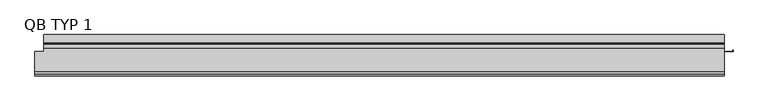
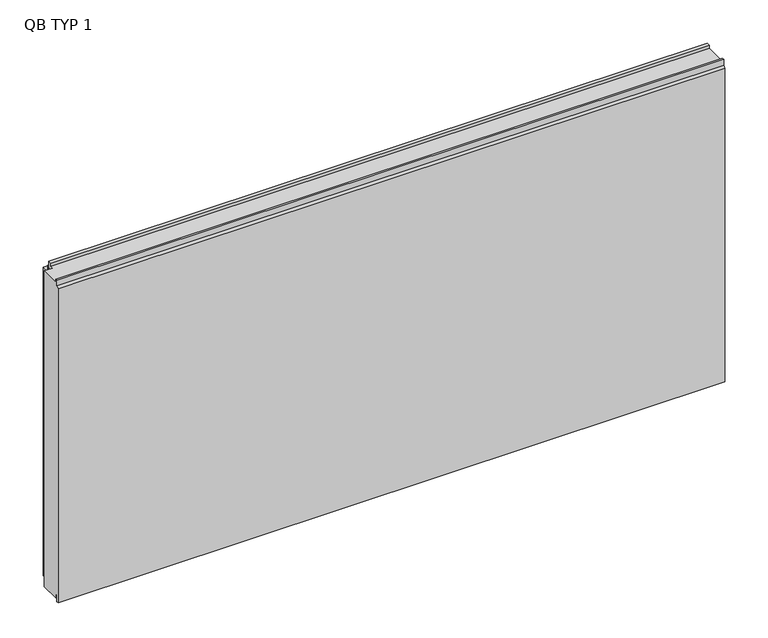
"""IFC4 building model written with IfcOpenShell, lengths in millimetres: plate geometry, TR_C_H_QBISS_Panel : QB TYP 1."""

from ifc_helpers import new_model, si_unit, frame, origin, place, context, project, spatial, polyline, outline, extrude, faceted_brep, source, transform, mapped, element, save


def qb_typ_1_c7bdcc42(model_context):
    return source(origin(), model_context, "Body", "SolidModel", [
        extrude(outline(polyline([(1011.7500002, -49.0), (986.5500002, -49.0), (986.5500002, -48.2), (1010.9500002, -48.2), (1010.9500002, -44.0), (1011.7500002, -44.0), (1011.7500002, -49.0)])), frame((0.0, 0.0, 54.0), z_axis=(0.0, 0.0, 1.0), x_axis=(1.0, 0.0, 0.0)), (0.0, 0.0, 1.0), 862.0),
        faceted_brep([(986.7500002, -108.0, 1000.0), (986.7500002, -108.0, 1010.0), (986.7500002, -114.0, 1010.0), (986.7500002, -114.0, 992.0), (986.7500002, -120.0, 986.0), (986.7500002, -120.0, -8.0), (986.7500002, -114.0, -8.0), (986.7500002, -114.0, 13.0), (986.7500002, -108.0, 13.0), (986.7500002, -108.0, 0.0), (986.7500002, -49.0, 0.0), (986.7500002, -49.0, 1000.0), (-1011.6500002, -108.0, 0.0), (-1011.6500002, -108.0, 13.0), (-1011.6500002, -114.0, 13.0), (-1011.6500002, -114.0, -8.0), (-1011.6500002, -120.0, -8.0), (-1011.6500002, -120.0, 986.0), (-1011.6500002, -114.0, 992.0), (-1011.6500002, -114.0, 1010.0), (-1011.6500002, -108.0, 1010.0), (-1011.6500002, -108.0, 1000.0), (-1011.6500002, -49.0, 1000.0), (-1011.6500002, -49.0, 0.0), (-986.5500002, -49.0, 0.0), (-986.5500002, -39.0, 0.0), (986.5500002, -39.0, 0.0), (986.5500002, -49.0, 0.0), (-986.5500002, -39.0, 13.0), (986.5500002, -39.0, 13.0), (-986.5500002, -29.0, 13.0), (986.5500002, -29.0, 13.0), (-986.5500002, -29.0, -4.0), (986.5500002, -29.0, -4.0), (-986.5500002, 0.0, -4.0), (986.5500002, 0.0, -4.0), (-986.5500002, 0.0, 973.0), (986.5500002, 0.0, 973.0), (-986.5500002, -29.0, 973.0), (986.5500002, -29.0, 973.0), (-986.5500002, -29.0, 1010.0), (986.5500002, -29.0, 1010.0), (-986.5500002, -39.0, 1010.0), (986.5500002, -39.0, 1010.0), (-986.5500002, -39.0, 1000.0), (986.5500002, -39.0, 1000.0), (986.5500002, -49.0, 1000.0), (-986.5500002, -49.0, 1000.0)], [[[0, 1, 2, 3, 4, 5, 6, 7, 8, 9, 10, 11]], [[12, 13, 14, 15, 16, 17, 18, 19, 20, 21, 22, 23]], [[9, 12, 23, 24, 25, 26, 27, 10]], [[26, 25, 28, 29]], [[29, 28, 30, 31]], [[31, 30, 32, 33]], [[33, 32, 34, 35]], [[35, 34, 36, 37]], [[37, 36, 38, 39]], [[39, 38, 40, 41]], [[41, 40, 42, 43]], [[43, 42, 44, 45]], [[21, 0, 11, 46, 45, 44, 47, 22]], [[1, 0, 21, 20]], [[2, 1, 20, 19]], [[3, 2, 19, 18]], [[4, 3, 18, 17]], [[5, 4, 17, 16]], [[6, 5, 16, 15]], [[7, 6, 15, 14]], [[8, 7, 14, 13]], [[9, 8, 13, 12]], [[47, 24, 23, 22]], [[24, 47, 44, 42, 40, 38, 36, 34, 32, 30, 28, 25]], [[46, 27, 26, 29, 31, 33, 35, 37, 39, 41, 43, 45]], [[27, 46, 11, 10]]]),
        extrude(outline(polyline([(-24.0, 994.5), (-24.0, 974.5), (-25.4998317, 974.5), (-25.4998317, 981.3023028), (-27.9998293, 981.3023028), (-27.9998293, 980.5023028), (-28.7998428, 980.5023028), (-28.7998428, 988.5023593), (-27.9998293, 988.5023593), (-27.9998293, 987.7023593), (-25.4998317, 987.7023593), (-25.4998317, 994.5), (-24.0, 994.5)])), frame((-986.5500002, 0.0, 0.0), z_axis=(1.0, 0.0, 0.0), x_axis=(0.0, 1.0, 0.0)), (0.0, 0.0, 1.0), 1973.1000003),
    ])


if __name__ == "__main__":
    model = new_model("IFC4")
    model_context = context("Model", 3, world=origin())
    ifc_project = project(units=[si_unit("LENGTHUNIT", "METRE", prefix="MILLI")], contexts=[model_context])
    site = spatial("IfcSite", under=ifc_project)
    building = spatial("IfcBuilding", under=site)
    placement = place(None, origin())
    qb_typ_1_shape = qb_typ_1_c7bdcc42(model_context)
    element("IfcPlate", 1, ObjectType="TR_C_H_QBISS_Panel : QB TYP 1", at=placement, inside=building, context=model_context, shape_type="MappedRepresentation", body=[
        mapped(qb_typ_1_shape, transform((0.0, 0.0, 0.0), x_axis=(1.0, 0.0, 0.0), y_axis=(0.0, 1.0, 0.0), z_axis=(0.0, 0.0, 1.0))),
    ])
    save(model, "model.ifc")
